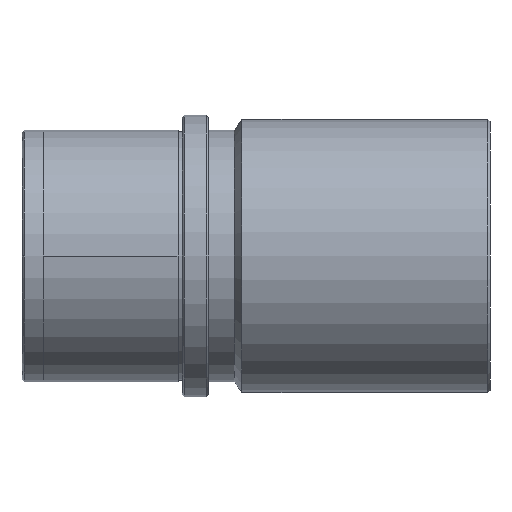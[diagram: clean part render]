
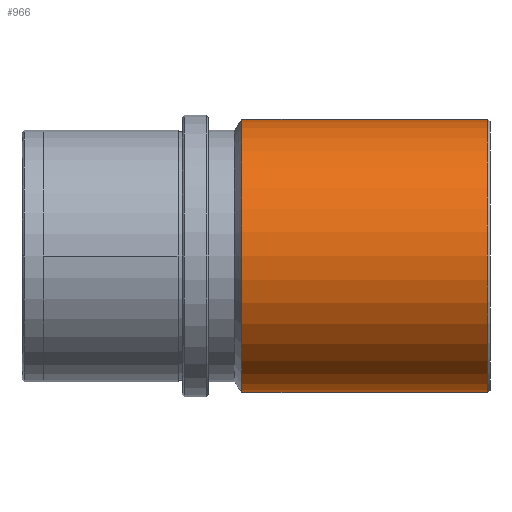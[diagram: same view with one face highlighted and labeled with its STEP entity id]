
A CAD part, left-side view. The second image highlights one B-rep face of the part: STEP entity #966.
In plain terms, the highlighted cylindrical face has radius 31.5 mm (diameter 63 mm), a partial arc.
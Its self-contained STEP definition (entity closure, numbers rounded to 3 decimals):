
#55 = DIRECTION ( 'NONE',  ( 0., -1., 0. ) ) ;
#110 = CARTESIAN_POINT ( 'NONE',  ( 0., -7.732, 31.5 ) ) ;
#133 = AXIS2_PLACEMENT_3D ( 'NONE', #205, #55, #1339 ) ;
#150 = VERTEX_POINT ( 'NONE', #598 ) ;
#162 = DIRECTION ( 'NONE',  ( 0., 1., 0. ) ) ;
#205 = CARTESIAN_POINT ( 'NONE',  ( 0., -7.732, 0. ) ) ;
#221 = VERTEX_POINT ( 'NONE', #533 ) ;
#280 = ORIENTED_EDGE ( 'NONE', *, *, #534, .F. ) ;
#337 = DIRECTION ( 'NONE',  ( 0., 0., 1. ) ) ;
#385 = CARTESIAN_POINT ( 'NONE',  ( 0., -64.5, 0. ) ) ;
#419 = VERTEX_POINT ( 'NONE', #110 ) ;
#437 = AXIS2_PLACEMENT_3D ( 'NONE', #385, #1235, #1096 ) ;
#505 = DIRECTION ( 'NONE',  ( 0., 1., 0. ) ) ;
#533 = CARTESIAN_POINT ( 'NONE',  ( 0., -7.732, -31.5 ) ) ;
#534 = EDGE_CURVE ( 'NONE', #1248, #221, #1092, .T. ) ;
#582 = VECTOR ( 'NONE', #162, 1000. ) ;
#598 = CARTESIAN_POINT ( 'NONE',  ( 0., -64.5, 31.5 ) ) ;
#654 = CARTESIAN_POINT ( 'NONE',  ( 0., -64.5, 0. ) ) ;
#707 = CIRCLE ( 'NONE', #437, 31.5 ) ;
#712 = CIRCLE ( 'NONE', #133, 31.5 ) ;
#814 = CYLINDRICAL_SURFACE ( 'NONE', #888, 31.5 ) ;
#880 = ORIENTED_EDGE ( 'NONE', *, *, #1006, .T. ) ;
#888 = AXIS2_PLACEMENT_3D ( 'NONE', #654, #505, #337 ) ;
#898 = FACE_OUTER_BOUND ( 'NONE', #1188, .T. ) ;
#944 = ORIENTED_EDGE ( 'NONE', *, *, #1114, .T. ) ;
#966 = ADVANCED_FACE ( 'NONE', ( #898 ), #814, .T. ) ;
#1001 = CARTESIAN_POINT ( 'NONE',  ( 0., -64.5, -31.5 ) ) ;
#1006 = EDGE_CURVE ( 'NONE', #150, #419, #1364, .T. ) ;
#1092 = LINE ( 'NONE', #1001, #582 ) ;
#1094 = DIRECTION ( 'NONE',  ( 0., 1., 0. ) ) ;
#1096 = DIRECTION ( 'NONE',  ( 0., 0., 1. ) ) ;
#1110 = EDGE_CURVE ( 'NONE', #1248, #150, #707, .T. ) ;
#1114 = EDGE_CURVE ( 'NONE', #419, #221, #712, .T. ) ;
#1120 = VECTOR ( 'NONE', #1094, 1000. ) ;
#1178 = CARTESIAN_POINT ( 'NONE',  ( 0., -64.5, -31.5 ) ) ;
#1188 = EDGE_LOOP ( 'NONE', ( #280, #1324, #880, #944 ) ) ;
#1232 = CARTESIAN_POINT ( 'NONE',  ( 0., -64.5, 31.5 ) ) ;
#1235 = DIRECTION ( 'NONE',  ( 0., 1., 0. ) ) ;
#1248 = VERTEX_POINT ( 'NONE', #1178 ) ;
#1324 = ORIENTED_EDGE ( 'NONE', *, *, #1110, .T. ) ;
#1339 = DIRECTION ( 'NONE',  ( 0., 0., -1. ) ) ;
#1364 = LINE ( 'NONE', #1232, #1120 ) ;
